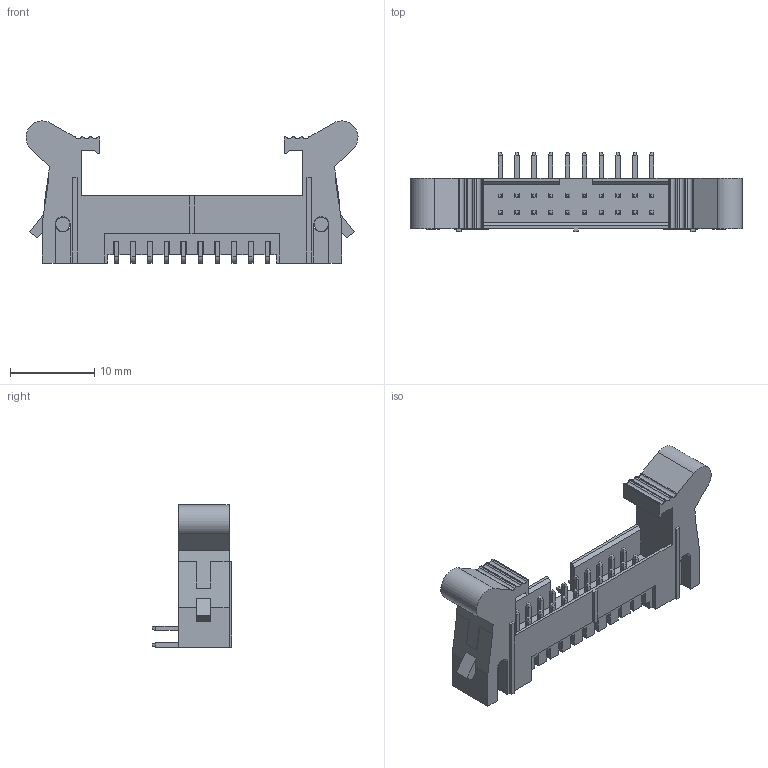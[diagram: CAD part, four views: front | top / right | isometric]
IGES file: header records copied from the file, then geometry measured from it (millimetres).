
Start section:  PTC IGES file: 3110-20-002-12-00.igs
Global section: file name: 3110-20-002-12-00.igs; native system: Pro/ENGINEER by Parametric Technology Corporation; preprocessor: 2010280; author: eng; organization: Unknown; date: 20150615.083749; units: millimetre
Bounding box: 39.45 x 9.4 x 16.9 mm (x, y, z)
Volume: 1518.9 mm3; surface area: 2427.7 mm2
Topology: 3 solids, 3 shells, 632 faces, 1606 edges, 1016 vertices
Faces by surface type: bspline 564, revolution 68
